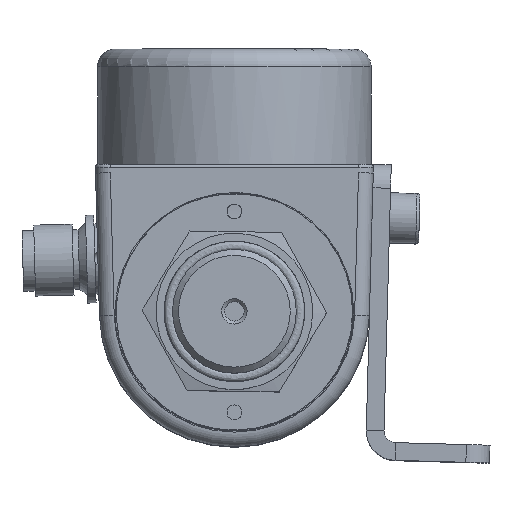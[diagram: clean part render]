
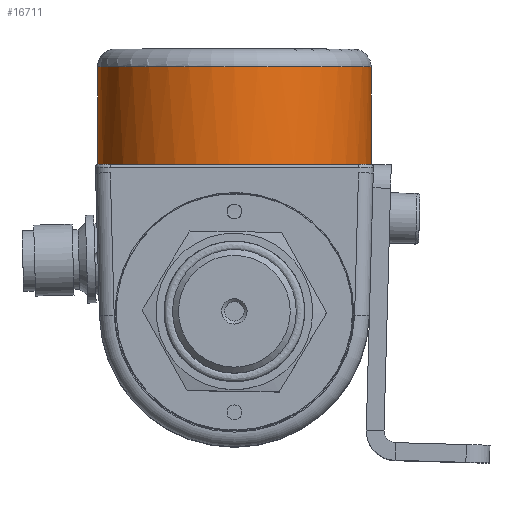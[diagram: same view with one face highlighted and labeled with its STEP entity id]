
A CAD part, top view. The second image highlights one B-rep face of the part: STEP entity #16711.
In plain terms, the highlighted cylindrical face has radius 23.15 mm (diameter 46.3 mm), a full revolution.
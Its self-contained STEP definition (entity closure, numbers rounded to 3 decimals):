
#3552=CYLINDRICAL_SURFACE('',#17991,23.15);
#3720=FACE_BOUND('',#5383,.T.);
#4298=FACE_OUTER_BOUND('',#5382,.T.);
#5382=EDGE_LOOP('',(#12330,#12331,#12332,#12333,#12334,#12335,#12336,#12337));
#5383=EDGE_LOOP('',(#12338));
#6330=CIRCLE('',#17981,23.15);
#6331=CIRCLE('',#17983,23.15);
#6332=CIRCLE('',#17985,23.15);
#6333=CIRCLE('',#17987,23.15);
#6336=CIRCLE('',#17992,23.15);
#6337=CIRCLE('',#17993,23.15);
#6338=CIRCLE('',#17994,23.15);
#6339=CIRCLE('',#17995,23.15);
#6340=CIRCLE('',#17996,23.15);
#6956=VERTEX_POINT('',#25116);
#6957=VERTEX_POINT('',#25118);
#6961=VERTEX_POINT('',#25132);
#6962=VERTEX_POINT('',#25134);
#6965=VERTEX_POINT('',#25142);
#6966=VERTEX_POINT('',#25144);
#6969=VERTEX_POINT('',#25156);
#6970=VERTEX_POINT('',#25158);
#7198=VERTEX_POINT('',#26581);
#9045=EDGE_CURVE('',#6962,#6969,#6330,.T.);
#9046=EDGE_CURVE('',#6957,#6961,#6331,.T.);
#9047=EDGE_CURVE('',#6966,#6956,#6332,.T.);
#9048=EDGE_CURVE('',#6970,#6965,#6333,.T.);
#9051=EDGE_CURVE('',#6957,#6956,#6336,.T.);
#9052=EDGE_CURVE('',#6966,#6965,#6337,.T.);
#9053=EDGE_CURVE('',#6970,#6969,#6338,.T.);
#9054=EDGE_CURVE('',#6962,#6961,#6339,.T.);
#9055=EDGE_CURVE('',#7198,#7198,#6340,.T.);
#12330=ORIENTED_EDGE('',*,*,#9051,.T.);
#12331=ORIENTED_EDGE('',*,*,#9047,.F.);
#12332=ORIENTED_EDGE('',*,*,#9052,.T.);
#12333=ORIENTED_EDGE('',*,*,#9048,.F.);
#12334=ORIENTED_EDGE('',*,*,#9053,.T.);
#12335=ORIENTED_EDGE('',*,*,#9045,.F.);
#12336=ORIENTED_EDGE('',*,*,#9054,.T.);
#12337=ORIENTED_EDGE('',*,*,#9046,.F.);
#12338=ORIENTED_EDGE('',*,*,#9055,.F.);
#16711=ADVANCED_FACE('',(#4298,#3720),#3552,.T.);
#17981=AXIS2_PLACEMENT_3D('',#26564,#20532,#20533);
#17983=AXIS2_PLACEMENT_3D('',#26566,#20536,#20537);
#17985=AXIS2_PLACEMENT_3D('',#26568,#20540,#20541);
#17987=AXIS2_PLACEMENT_3D('',#26570,#20544,#20545);
#17991=AXIS2_PLACEMENT_3D('',#26576,#20552,#20553);
#17992=AXIS2_PLACEMENT_3D('',#26577,#20554,#20555);
#17993=AXIS2_PLACEMENT_3D('',#26578,#20556,#20557);
#17994=AXIS2_PLACEMENT_3D('',#26579,#20558,#20559);
#17995=AXIS2_PLACEMENT_3D('',#26580,#20560,#20561);
#17996=AXIS2_PLACEMENT_3D('',#26582,#20562,#20563);
#20532=DIRECTION('center_axis',(0.,-1.,0.));
#20533=DIRECTION('ref_axis',(0.,0.,
-1.));
#20536=DIRECTION('center_axis',(0.,-1.,0.));
#20537=DIRECTION('ref_axis',(0.,0.,
-1.));
#20540=DIRECTION('center_axis',(0.,-1.,0.));
#20541=DIRECTION('ref_axis',(0.,0.,
-1.));
#20544=DIRECTION('center_axis',(0.,-1.,0.));
#20545=DIRECTION('ref_axis',(0.,0.,
-1.));
#20552=DIRECTION('center_axis',(0.,-1.,0.));
#20553=DIRECTION('ref_axis',(0.,0.,
-1.));
#20554=DIRECTION('center_axis',(0.,1.,0.));
#20555=DIRECTION('ref_axis',(0.,0.,
-1.));
#20556=DIRECTION('center_axis',(0.,1.,0.));
#20557=DIRECTION('ref_axis',(0.,0.,
-1.));
#20558=DIRECTION('center_axis',(0.,1.,0.));
#20559=DIRECTION('ref_axis',(0.,0.,
-1.));
#20560=DIRECTION('center_axis',(0.,1.,0.));
#20561=DIRECTION('ref_axis',(0.,0.,
-1.));
#20562=DIRECTION('center_axis',(0.,1.,0.));
#20563=DIRECTION('ref_axis',(0.,0.,
-1.));
#25116=CARTESIAN_POINT('',(2.631,25.,23.));
#25118=CARTESIAN_POINT('',(-2.631,25.,23.));
#25132=CARTESIAN_POINT('',(-23.,25.,2.631));
#25134=CARTESIAN_POINT('',(-23.,25.,-2.631));
#25142=CARTESIAN_POINT('',(23.,25.,-2.631));
#25144=CARTESIAN_POINT('',(23.,25.,2.631));
#25156=CARTESIAN_POINT('',(-2.631,25.,-23.));
#25158=CARTESIAN_POINT('',(2.631,25.,-23.));
#26564=CARTESIAN_POINT('Origin',(0.,25.,
0.));
#26566=CARTESIAN_POINT('Origin',(0.,25.,
0.));
#26568=CARTESIAN_POINT('Origin',(0.,25.,
0.));
#26570=CARTESIAN_POINT('Origin',(0.,25.,
0.));
#26576=CARTESIAN_POINT('Origin',(0.,44.5,
0.));
#26577=CARTESIAN_POINT('Origin',(0.,25.,
0.));
#26578=CARTESIAN_POINT('Origin',(0.,25.,
0.));
#26579=CARTESIAN_POINT('Origin',(0.,25.,
0.));
#26580=CARTESIAN_POINT('Origin',(0.,25.,
0.));
#26581=CARTESIAN_POINT('',(0.,41.5,23.15));
#26582=CARTESIAN_POINT('Origin',(0.,41.5,
0.));
